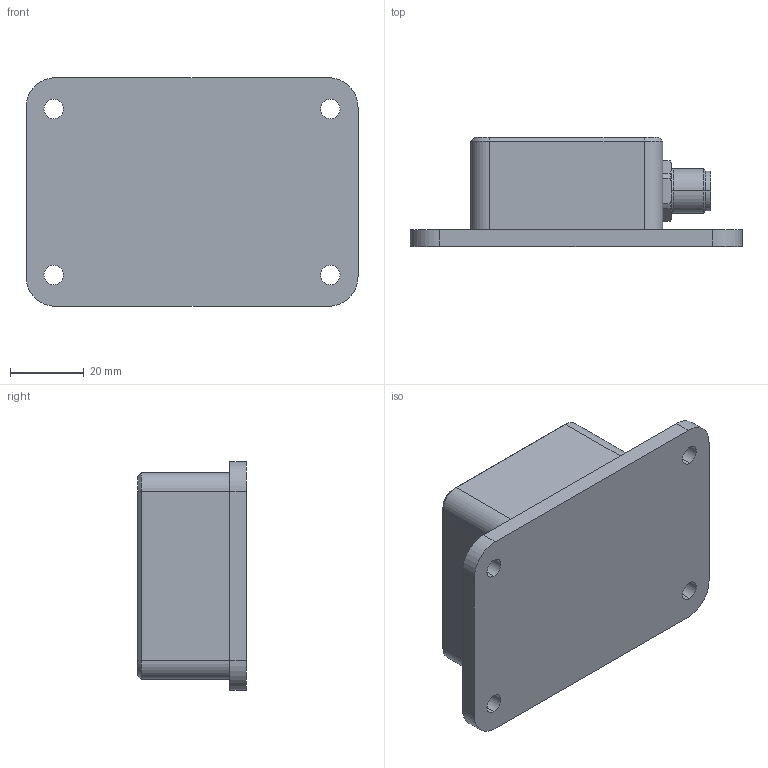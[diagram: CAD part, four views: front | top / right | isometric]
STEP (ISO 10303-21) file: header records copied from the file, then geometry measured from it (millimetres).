
FILE_DESCRIPTION (( 'STEP AP214' ), '1' );
FILE_NAME ('301530D.STEP', '2025-09-04T07:49:49', ( '' ), ( '' ), 'SwSTEP 2.0', 'SolidWorks 2025', '' );
FILE_SCHEMA (( 'AUTOMOTIVE_DESIGN' ));
Length unit declared in the file: millimetre
Products named in the file (1): 301530D
Bounding box: 90 x 29.5 x 62 mm (x, y, z)
Volume: 97795.3 mm3; surface area: 18417.7 mm2
Topology: 1 solids, 1 shells, 230 faces, 605 edges, 384 vertices
Faces by surface type: plane 76, cylinder 69, bspline 32, torus 29, cone 14, sphere 10
Entity records: 9979 total; most frequent: CARTESIAN_POINT 1908, ORIENTED_EDGE 1170, DIRECTION 1124, EDGE_CURVE 585, AXIS2_PLACEMENT_3D 418, VERTEX_POINT 374, LINE 288, VECTOR 288
